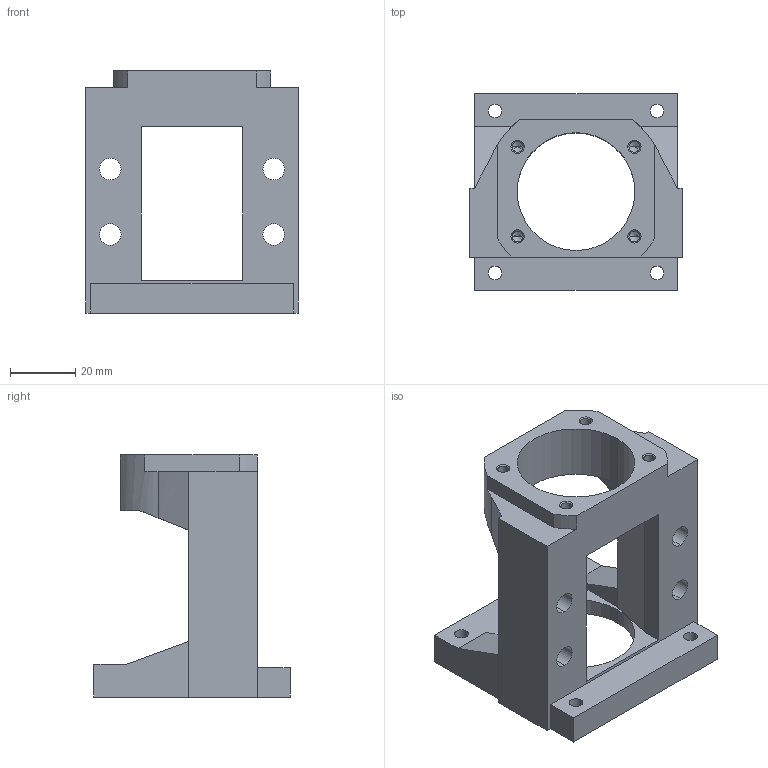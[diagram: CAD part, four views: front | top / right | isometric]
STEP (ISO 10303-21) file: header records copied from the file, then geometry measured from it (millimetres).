
FILE_DESCRIPTION (( 'STEP AP203' ), '1' );
FILE_NAME ('自化件傳動座外MBL10-D本體(與MBL12-D共用).STEP', '2023-05-23T03:25:47', ( '' ), ( '' ), 'SwSTEP 2.0', 'SolidWorks 2018', '' );
FILE_SCHEMA (( 'CONFIG_CONTROL_DESIGN' ));
Length unit declared in the file: millimetre
Products named in the file (1): 自化件傳動座外MBL10-D本體(與MBL12-D共用)
Bounding box: 65 x 60 x 74 mm (x, y, z)
Volume: 73030.2 mm3; surface area: 25442.4 mm2
Topology: 1 solids, 1 shells, 106 faces, 272 edges, 168 vertices
Faces by surface type: cylinder 44, plane 38, cone 24
Entity records: 3281 total; most frequent: DIRECTION 578, CARTESIAN_POINT 551, ORIENTED_EDGE 528, EDGE_CURVE 264, AXIS2_PLACEMENT_3D 211, VERTEX_POINT 168, LINE 156, VECTOR 156
